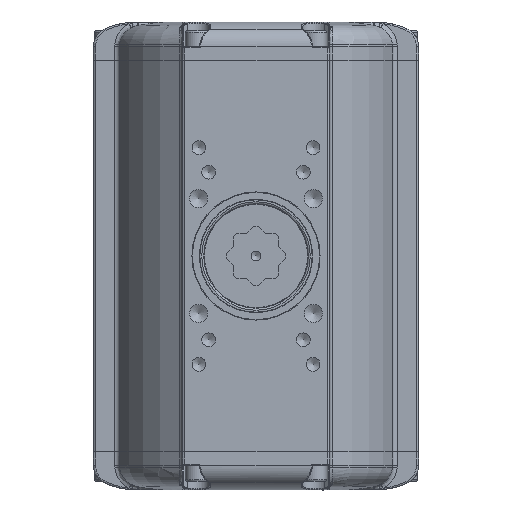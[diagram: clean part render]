
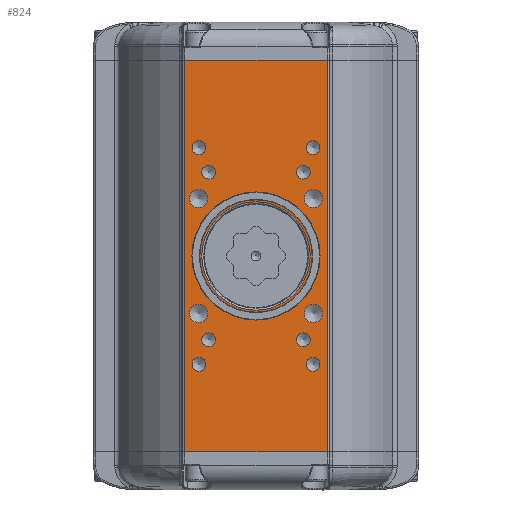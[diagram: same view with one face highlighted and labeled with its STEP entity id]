
A CAD part, front view. The second image highlights one B-rep face of the part: STEP entity #824.
In plain terms, the highlighted planar face has unit normal (0, -1, 0).
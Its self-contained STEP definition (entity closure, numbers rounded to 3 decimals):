
#379=CARTESIAN_POINT('',(-41.083,-175.,-85.0));
#380=VERTEX_POINT('',#379);
#381=CARTESIAN_POINT('',(-48.,-175.,-85.0));
#382=DIRECTION('',(0.0,1.0,0.0));
#383=DIRECTION('',(1.0,0.0,0.0));
#384=AXIS2_PLACEMENT_3D('',#381,#382,#383);
#385=CIRCLE('',#384,6.918);
#386=EDGE_CURVE('',#380,#380,#385,.T.);
#416=CARTESIAN_POINT('',(-41.083,-175.,85.0));
#417=VERTEX_POINT('',#416);
#418=CARTESIAN_POINT('',(-48.,-175.,85.0));
#419=DIRECTION('',(0.0,1.0,0.0));
#420=DIRECTION('',(1.0,0.0,0.0));
#421=AXIS2_PLACEMENT_3D('',#418,#419,#420);
#422=CIRCLE('',#421,6.918);
#423=EDGE_CURVE('',#417,#417,#422,.T.);
#453=CARTESIAN_POINT('',(54.917,-175.,85.0));
#454=VERTEX_POINT('',#453);
#455=CARTESIAN_POINT('',(48.,-175.,85.0));
#456=DIRECTION('',(0.0,1.0,0.0));
#457=DIRECTION('',(1.0,0.0,0.0));
#458=AXIS2_PLACEMENT_3D('',#455,#456,#457);
#459=CIRCLE('',#458,6.918);
#460=EDGE_CURVE('',#454,#454,#459,.T.);
#490=CARTESIAN_POINT('',(54.918,-175.,-85.0));
#491=VERTEX_POINT('',#490);
#492=CARTESIAN_POINT('',(48.,-175.,-85.0));
#493=DIRECTION('',(0.0,1.0,0.0));
#494=DIRECTION('',(1.0,0.0,0.0));
#495=AXIS2_PLACEMENT_3D('',#492,#493,#494);
#496=CIRCLE('',#495,6.918);
#497=EDGE_CURVE('',#491,#491,#496,.T.);
#527=CARTESIAN_POINT('',(64.917,-175.,110.0));
#528=VERTEX_POINT('',#527);
#529=CARTESIAN_POINT('',(58.,-175.,110.0));
#530=DIRECTION('',(0.0,1.0,0.0));
#531=DIRECTION('',(1.0,0.0,0.0));
#532=AXIS2_PLACEMENT_3D('',#529,#530,#531);
#533=CIRCLE('',#532,6.918);
#534=EDGE_CURVE('',#528,#528,#533,.T.);
#564=CARTESIAN_POINT('',(64.918,-175.,-110.0));
#565=VERTEX_POINT('',#564);
#566=CARTESIAN_POINT('',(58.,-175.,-110.0));
#567=DIRECTION('',(0.0,1.0,0.0));
#568=DIRECTION('',(1.0,0.0,0.0));
#569=AXIS2_PLACEMENT_3D('',#566,#567,#568);
#570=CIRCLE('',#569,6.918);
#571=EDGE_CURVE('',#565,#565,#570,.T.);
#601=CARTESIAN_POINT('',(-51.083,-175.,110.0));
#602=VERTEX_POINT('',#601);
#603=CARTESIAN_POINT('',(-58.,-175.,110.0));
#604=DIRECTION('',(0.0,1.0,0.0));
#605=DIRECTION('',(1.0,0.0,0.0));
#606=AXIS2_PLACEMENT_3D('',#603,#604,#605);
#607=CIRCLE('',#606,6.918);
#608=EDGE_CURVE('',#602,#602,#607,.T.);
#638=CARTESIAN_POINT('',(-51.082,-175.,-110.0));
#639=VERTEX_POINT('',#638);
#640=CARTESIAN_POINT('',(-58.,-175.,-110.0));
#641=DIRECTION('',(0.0,1.0,0.0));
#642=DIRECTION('',(1.0,0.0,0.0));
#643=AXIS2_PLACEMENT_3D('',#640,#641,#642);
#644=CIRCLE('',#643,6.918);
#645=EDGE_CURVE('',#639,#639,#644,.T.);
#669=CARTESIAN_POINT('',(55.,-175.,0.));
#670=VERTEX_POINT('',#669);
#671=CARTESIAN_POINT('',(0.0,-175.,0.0));
#672=DIRECTION('',(0.0,-1.0,0.0));
#673=DIRECTION('',(-1.0,0.0,0.0));
#674=AXIS2_PLACEMENT_3D('',#671,#672,#673);
#675=CIRCLE('',#674,55.);
#676=EDGE_CURVE('',#670,#670,#675,.T.);
#681=CARTESIAN_POINT('',(75.,-175.,0.0));
#682=DIRECTION('',(0.0,-1.0,0.0));
#683=DIRECTION('',(0.0,0.0,-1.0));
#684=AXIS2_PLACEMENT_3D('',#681,#682,#683);
#685=PLANE('',#684);
#686=CARTESIAN_POINT('',(72.5,-175.,198.5));
#687=VERTEX_POINT('',#686);
#688=CARTESIAN_POINT('',(72.5,-175.,-198.5));
#689=VERTEX_POINT('',#688);
#690=CARTESIAN_POINT('',(72.5,-175.,198.5));
#691=DIRECTION('',(0.0,0.0,-1.0));
#692=VECTOR('',#691,397.0);
#693=LINE('',#690,#692);
#694=EDGE_CURVE('',#687,#689,#693,.T.);
#695=ORIENTED_EDGE('',*,*,#694,.F.);
#696=CARTESIAN_POINT('',(-72.5,-175.,198.5));
#697=VERTEX_POINT('',#696);
#698=CARTESIAN_POINT('',(72.5,-175.,198.5));
#699=DIRECTION('',(-1.0,0.0,0.0));
#700=VECTOR('',#699,145.);
#701=LINE('',#698,#700);
#702=EDGE_CURVE('',#687,#697,#701,.T.);
#703=ORIENTED_EDGE('',*,*,#702,.T.);
#704=CARTESIAN_POINT('',(-72.5,-175.,-198.5));
#705=VERTEX_POINT('',#704);
#706=CARTESIAN_POINT('',(-72.5,-175.,-198.5));
#707=DIRECTION('',(0.0,0.0,1.0));
#708=VECTOR('',#707,397.0);
#709=LINE('',#706,#708);
#710=EDGE_CURVE('',#705,#697,#709,.T.);
#711=ORIENTED_EDGE('',*,*,#710,.F.);
#712=CARTESIAN_POINT('',(-72.5,-175.,-198.5));
#713=DIRECTION('',(1.0,0.0,0.0));
#714=VECTOR('',#713,145.);
#715=LINE('',#712,#714);
#716=EDGE_CURVE('',#705,#689,#715,.T.);
#717=ORIENTED_EDGE('',*,*,#716,.T.);
#718=EDGE_LOOP('',(#695,#703,#711,#717));
#719=FACE_OUTER_BOUND('',#718,.T.);
#720=ORIENTED_EDGE('',*,*,#386,.T.);
#721=EDGE_LOOP('',(#720));
#722=FACE_BOUND('',#721,.T.);
#723=ORIENTED_EDGE('',*,*,#423,.T.);
#724=EDGE_LOOP('',(#723));
#725=FACE_BOUND('',#724,.T.);
#726=ORIENTED_EDGE('',*,*,#460,.T.);
#727=EDGE_LOOP('',(#726));
#728=FACE_BOUND('',#727,.T.);
#729=ORIENTED_EDGE('',*,*,#497,.T.);
#730=EDGE_LOOP('',(#729));
#731=FACE_BOUND('',#730,.T.);
#732=CARTESIAN_POINT('',(64.25,-175.,0.0));
#733=VERTEX_POINT('',#732);
#734=CARTESIAN_POINT('',(62.5,-175.,0.0));
#735=DIRECTION('',(0.0,1.0,0.0));
#736=DIRECTION('',(1.0,0.0,0.0));
#737=AXIS2_PLACEMENT_3D('',#734,#735,#736);
#738=CIRCLE('',#737,1.75);
#739=EDGE_CURVE('',#733,#733,#738,.T.);
#740=ORIENTED_EDGE('',*,*,#739,.T.);
#741=EDGE_LOOP('',(#740));
#742=FACE_BOUND('',#741,.T.);
#743=CARTESIAN_POINT('',(-29.5,-175.,54.127));
#744=VERTEX_POINT('',#743);
#745=CARTESIAN_POINT('',(-31.25,-175.,54.127));
#746=DIRECTION('',(0.0,1.0,0.0));
#747=DIRECTION('',(1.0,0.0,0.0));
#748=AXIS2_PLACEMENT_3D('',#745,#746,#747);
#749=CIRCLE('',#748,1.75);
#750=EDGE_CURVE('',#744,#744,#749,.T.);
#751=ORIENTED_EDGE('',*,*,#750,.T.);
#752=EDGE_LOOP('',(#751));
#753=FACE_BOUND('',#752,.T.);
#754=CARTESIAN_POINT('',(-29.5,-175.,-54.127));
#755=VERTEX_POINT('',#754);
#756=CARTESIAN_POINT('',(-31.25,-175.,-54.127));
#757=DIRECTION('',(0.0,1.0,0.0));
#758=DIRECTION('',(1.0,0.0,0.0));
#759=AXIS2_PLACEMENT_3D('',#756,#757,#758);
#760=CIRCLE('',#759,1.75);
#761=EDGE_CURVE('',#755,#755,#760,.T.);
#762=ORIENTED_EDGE('',*,*,#761,.T.);
#763=EDGE_LOOP('',(#762));
#764=FACE_BOUND('',#763,.T.);
#765=ORIENTED_EDGE('',*,*,#534,.T.);
#766=EDGE_LOOP('',(#765));
#767=FACE_BOUND('',#766,.T.);
#768=ORIENTED_EDGE('',*,*,#571,.T.);
#769=EDGE_LOOP('',(#768));
#770=FACE_BOUND('',#769,.T.);
#771=ORIENTED_EDGE('',*,*,#608,.T.);
#772=EDGE_LOOP('',(#771));
#773=FACE_BOUND('',#772,.T.);
#774=ORIENTED_EDGE('',*,*,#645,.T.);
#775=EDGE_LOOP('',(#774));
#776=FACE_BOUND('',#775,.T.);
#777=CARTESIAN_POINT('',(67.524,-175.,58.336));
#778=VERTEX_POINT('',#777);
#779=CARTESIAN_POINT('',(58.336,-175.,58.336));
#780=DIRECTION('',(0.0,1.0,0.0));
#781=DIRECTION('',(1.0,0.0,0.0));
#782=AXIS2_PLACEMENT_3D('',#779,#780,#781);
#783=CIRCLE('',#782,9.188);
#784=EDGE_CURVE('',#778,#778,#783,.T.);
#785=ORIENTED_EDGE('',*,*,#784,.T.);
#786=EDGE_LOOP('',(#785));
#787=FACE_BOUND('',#786,.T.);
#788=CARTESIAN_POINT('',(-49.148,-175.,-58.336));
#789=VERTEX_POINT('',#788);
#790=CARTESIAN_POINT('',(-58.336,-175.,-58.336));
#791=DIRECTION('',(0.0,1.0,0.0));
#792=DIRECTION('',(1.0,0.0,0.0));
#793=AXIS2_PLACEMENT_3D('',#790,#791,#792);
#794=CIRCLE('',#793,9.188);
#795=EDGE_CURVE('',#789,#789,#794,.T.);
#796=ORIENTED_EDGE('',*,*,#795,.T.);
#797=EDGE_LOOP('',(#796));
#798=FACE_BOUND('',#797,.T.);
#799=CARTESIAN_POINT('',(67.524,-175.,-58.336));
#800=VERTEX_POINT('',#799);
#801=CARTESIAN_POINT('',(58.336,-175.,-58.336));
#802=DIRECTION('',(0.0,1.0,0.0));
#803=DIRECTION('',(1.0,0.0,0.0));
#804=AXIS2_PLACEMENT_3D('',#801,#802,#803);
#805=CIRCLE('',#804,9.188);
#806=EDGE_CURVE('',#800,#800,#805,.T.);
#807=ORIENTED_EDGE('',*,*,#806,.T.);
#808=EDGE_LOOP('',(#807));
#809=FACE_BOUND('',#808,.T.);
#810=CARTESIAN_POINT('',(-49.148,-175.,58.336));
#811=VERTEX_POINT('',#810);
#812=CARTESIAN_POINT('',(-58.336,-175.,58.336));
#813=DIRECTION('',(0.0,1.0,0.0));
#814=DIRECTION('',(1.0,0.0,0.0));
#815=AXIS2_PLACEMENT_3D('',#812,#813,#814);
#816=CIRCLE('',#815,9.188);
#817=EDGE_CURVE('',#811,#811,#816,.T.);
#818=ORIENTED_EDGE('',*,*,#817,.T.);
#819=EDGE_LOOP('',(#818));
#820=FACE_BOUND('',#819,.T.);
#821=ORIENTED_EDGE('',*,*,#676,.F.);
#822=EDGE_LOOP('',(#821));
#823=FACE_BOUND('',#822,.T.);
#824=ADVANCED_FACE('',(#719,#722,#725,#728,#731,#742,#753,#764,#767,#770,#773,#776,#787,#798,#809,#820,#823),#685,.T.);
